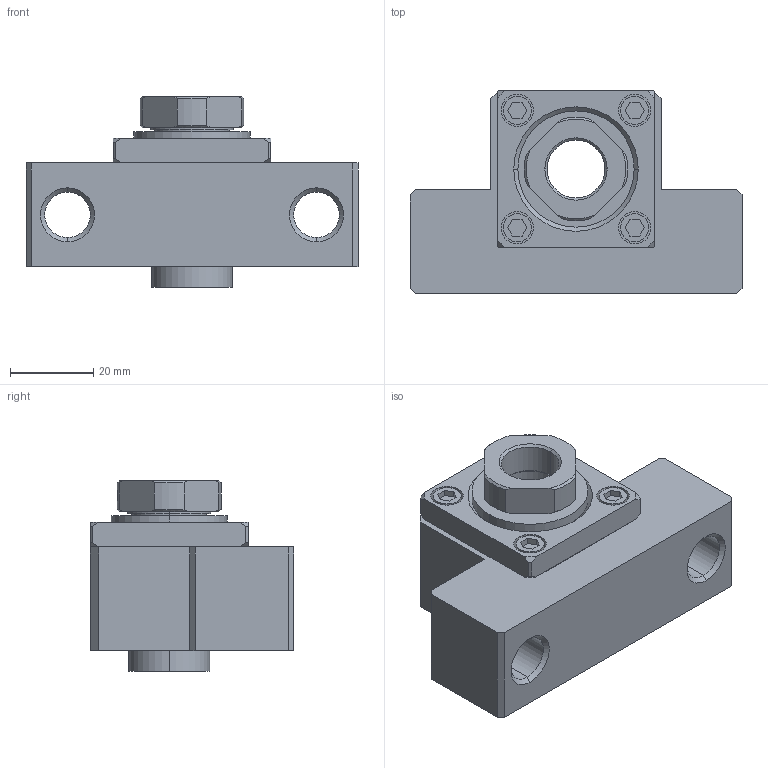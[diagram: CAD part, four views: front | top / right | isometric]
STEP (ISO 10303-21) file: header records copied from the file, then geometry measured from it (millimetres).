
FILE_DESCRIPTION (( 'STEP AP214' ), '1' );
FILE_NAME ('2.4016 Kuularuuvin tukilaakeri EK15.STEP', '2024-05-30T07:58:59', ( '' ), ( '' ), 'SwSTEP 2.0', 'SolidWorks 2024', '' );
FILE_SCHEMA (( 'AUTOMOTIVE_DESIGN' ));
Length unit declared in the file: millimetre
Products named in the file (1): 2.4016 Kuularuuvin tukilaakeri EK15
Bounding box: 80 x 49 x 46 mm (x, y, z)
Volume: 76063.2 mm3; surface area: 19357.3 mm2
Topology: 3 solids, 3 shells, 168 faces, 404 edges, 264 vertices
Faces by surface type: plane 84, cylinder 52, cone 30, torus 2
Entity records: 6865 total; most frequent: CARTESIAN_POINT 1098, DIRECTION 834, ORIENTED_EDGE 808, EDGE_CURVE 404, AXIS2_PLACEMENT_3D 304, VERTEX_POINT 264, VECTOR 226, LINE 226
